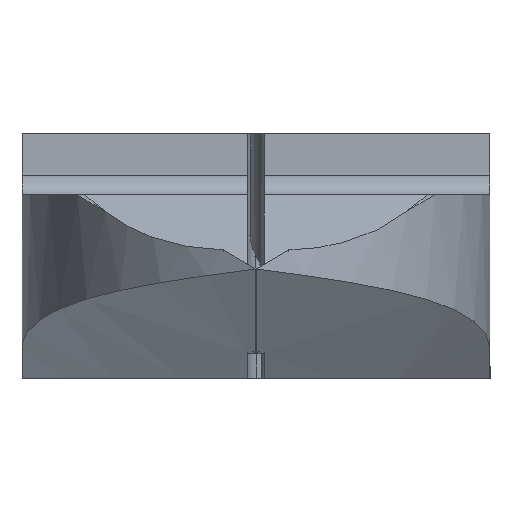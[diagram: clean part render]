
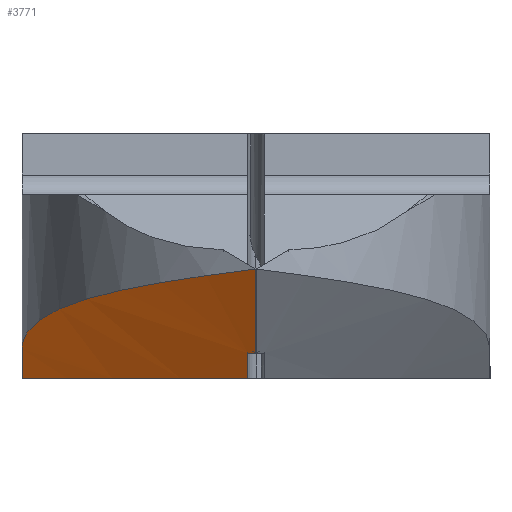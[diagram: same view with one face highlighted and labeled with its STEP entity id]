
A CAD part, left-side view. The second image highlights one B-rep face of the part: STEP entity #3771.
In plain terms, the highlighted cylindrical face has radius 75 mm (diameter 150 mm), a partial arc.
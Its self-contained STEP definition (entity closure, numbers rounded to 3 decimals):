
#35 = CARTESIAN_POINT ( 'NONE',  ( -14.996, 0.4, -12. ) ) ;
#44 = VERTEX_POINT ( 'NONE', #655 ) ;
#134 = CYLINDRICAL_SURFACE ( 'NONE', #700, 75. ) ;
#215 = CARTESIAN_POINT ( 'NONE',  ( -25.923, 9.353, -8.467 ) ) ;
#303 = EDGE_CURVE ( 'NONE', #44, #1290, #4991, .T. ) ;
#333 = CARTESIAN_POINT ( 'NONE',  ( -19.545, 0.267, -10.782 ) ) ;
#343 = CARTESIAN_POINT ( 'NONE',  ( -25.495, 9.563, -8.554 ) ) ;
#515 = DIRECTION ( 'NONE',  ( -0.966, 0., 0.259 ) ) ;
#571 = CARTESIAN_POINT ( 'NONE',  ( -21.53, 10.978, -9.414 ) ) ;
#655 = CARTESIAN_POINT ( 'NONE',  ( -19.545, 0.4, -10.781 ) ) ;
#700 = AXIS2_PLACEMENT_3D ( 'NONE', #3399, #3054, #2628 ) ;
#784 = CARTESIAN_POINT ( 'NONE',  ( -19.545, 0., -10.782 ) ) ;
#1000 = CARTESIAN_POINT ( 'NONE',  ( -24.201, 10.142, -8.822 ) ) ;
#1134 = CARTESIAN_POINT ( 'NONE',  ( -23.321, 10.463, -9.012 ) ) ;
#1176 = CARTESIAN_POINT ( 'NONE',  ( -27.165, 8.669, -8.22 ) ) ;
#1198 = DIRECTION ( 'NONE',  ( -0.966, 0., 0.259 ) ) ;
#1214 = CARTESIAN_POINT ( 'NONE',  ( -29.12, 7.358, -7.845 ) ) ;
#1285 = CARTESIAN_POINT ( 'NONE',  ( -13.776, 7.825, -12. ) ) ;
#1290 = VERTEX_POINT ( 'NONE', #4936 ) ;
#1530 = CARTESIAN_POINT ( 'NONE',  ( -28.36, 7.915, -7.988 ) ) ;
#1555 = CARTESIAN_POINT ( 'NONE',  ( -26.757, 8.906, -8.301 ) ) ;
#1582 = VERTEX_POINT ( 'NONE', #2063 ) ;
#1636 = EDGE_CURVE ( 'NONE', #2586, #5326, #5350, .T. ) ;
#1940 = ORIENTED_EDGE ( 'NONE', *, *, #2684, .T. ) ;
#1979 = CARTESIAN_POINT ( 'NONE',  ( -30.202, 6.439, -7.641 ) ) ;
#2021 = CARTESIAN_POINT ( 'NONE',  ( -16.896, 11.5, -10.574 ) ) ;
#2063 = CARTESIAN_POINT ( 'NONE',  ( -11.573, 11.5, -12. ) ) ;
#2303 = CARTESIAN_POINT ( 'NONE',  ( -35., 0., -6.641 ) ) ;
#2324 = EDGE_LOOP ( 'NONE', ( #4312, #2982, #1940, #4896, #2658, #4835 ) ) ;
#2392 = CARTESIAN_POINT ( 'NONE',  ( -31.566, 5.103, -7.382 ) ) ;
#2401 = FACE_OUTER_BOUND ( 'NONE', #2324, .T. ) ;
#2411 = CARTESIAN_POINT ( 'NONE',  ( -17.363, 11.5, -10.449 ) ) ;
#2447 = CARTESIAN_POINT ( 'NONE',  ( -17.829, 11.484, -10.326 ) ) ;
#2586 = VERTEX_POINT ( 'NONE', #4522 ) ;
#2628 = DIRECTION ( 'NONE',  ( 0.259, 0., 0.966 ) ) ;
#2658 = ORIENTED_EDGE ( 'NONE', *, *, #3706, .T. ) ;
#2675 = CARTESIAN_POINT ( 'NONE',  ( -19.229, 11.369, -9.97 ) ) ;
#2684 = EDGE_CURVE ( 'NONE', #5154, #44, #3427, .T. ) ;
#2710 = CARTESIAN_POINT ( 'NONE',  ( -34.184, 1.739, -6.86 ) ) ;
#2730 = CARTESIAN_POINT ( 'NONE',  ( -31.236, 5.45, -7.445 ) ) ;
#2859 = CARTESIAN_POINT ( 'NONE',  ( -23.403, 0., -9.748 ) ) ;
#2868 = DIRECTION ( 'NONE',  ( -0.966, 0., 0.259 ) ) ;
#2982 = ORIENTED_EDGE ( 'NONE', *, *, #5071, .F. ) ;
#3054 = DIRECTION ( 'NONE',  ( -0.966, 0., 0.259 ) ) ;
#3230 =( BOUNDED_CURVE ( )  B_SPLINE_CURVE ( 3, ( #3377, #3783, #1285, #4238 ),
 .UNSPECIFIED., .F., .T. ) 
 B_SPLINE_CURVE_WITH_KNOTS ( ( 4, 4 ),
 ( 0.005, 0.154 ),
 .UNSPECIFIED. ) 
 CURVE ( )  GEOMETRIC_REPRESENTATION_ITEM ( )  RATIONAL_B_SPLINE_CURVE ( ( 1., 0.998, 0.998, 1. ) ) 
 REPRESENTATION_ITEM ( '' )  );
#3294 = CARTESIAN_POINT ( 'NONE',  ( -19.545, 0.133, -10.782 ) ) ;
#3377 = CARTESIAN_POINT ( 'NONE',  ( -14.996, 0.4, -12. ) ) ;
#3399 = CARTESIAN_POINT ( 'NONE',  ( 7.609, 0., 59.588 ) ) ;
#3427 = LINE ( 'NONE', #5423, #4955 ) ;
#3478 = CARTESIAN_POINT ( 'NONE',  ( -11.573, 11.5, -12. ) ) ;
#3518 = LINE ( 'NONE', #3478, #4527 ) ;
#3650 = VECTOR ( 'NONE', #1198, 1000. ) ;
#3706 = EDGE_CURVE ( 'NONE', #1290, #2586, #3799, .T. ) ;
#3771 = ADVANCED_FACE ( 'NONE', ( #2401 ), #134, .T. ) ;
#3783 = CARTESIAN_POINT ( 'NONE',  ( -14.919, 4.119, -12. ) ) ;
#3792 = EDGE_CURVE ( 'NONE', #1582, #5326, #3518, .T. ) ;
#3799 = LINE ( 'NONE', #2859, #3650 ) ;
#4087 = CARTESIAN_POINT ( 'NONE',  ( -33.141, 3.32, -7.077 ) ) ;
#4128 = CARTESIAN_POINT ( 'NONE',  ( -30.553, 6.119, -7.574 ) ) ;
#4238 = CARTESIAN_POINT ( 'NONE',  ( -11.573, 11.5, -12. ) ) ;
#4312 = ORIENTED_EDGE ( 'NONE', *, *, #3792, .F. ) ;
#4522 = CARTESIAN_POINT ( 'NONE',  ( -35., 0., -6.641 ) ) ;
#4527 = VECTOR ( 'NONE', #515, 1000. ) ;
#4530 = CARTESIAN_POINT ( 'NONE',  ( -18.762, 11.418, -10.087 ) ) ;
#4807 = CARTESIAN_POINT ( 'NONE',  ( -16.896, 11.5, -10.574 ) ) ;
#4835 = ORIENTED_EDGE ( 'NONE', *, *, #1636, .T. ) ;
#4896 = ORIENTED_EDGE ( 'NONE', *, *, #303, .T. ) ;
#4936 = CARTESIAN_POINT ( 'NONE',  ( -19.545, 0., -10.782 ) ) ;
#4951 = CARTESIAN_POINT ( 'NONE',  ( -20.619, 11.173, -9.628 ) ) ;
#4955 = VECTOR ( 'NONE', #2868, 1000. ) ;
#4991 =( BOUNDED_CURVE ( )  B_SPLINE_CURVE ( 3, ( #5426, #333, #3294, #784 ),
 .UNSPECIFIED., .F., .T. ) 
 B_SPLINE_CURVE_WITH_KNOTS ( ( 4, 4 ),
 ( 3.136, 3.142 ),
 .UNSPECIFIED. ) 
 CURVE ( )  GEOMETRIC_REPRESENTATION_ITEM ( )  RATIONAL_B_SPLINE_CURVE ( ( 1., 1., 1., 1. ) ) 
 REPRESENTATION_ITEM ( '' )  );
#5071 = EDGE_CURVE ( 'NONE', #5154, #1582, #3230, .T. ) ;
#5154 = VERTEX_POINT ( 'NONE', #35 ) ;
#5326 = VERTEX_POINT ( 'NONE', #4807 ) ;
#5350 = B_SPLINE_CURVE_WITH_KNOTS ( 'NONE', 3,
 ( #2303, #2710, #4087, #2392, #2730, #4128, #1979, #1214, #1530, #1176, #1555, #215, #343, #1000, #1134, #571, #4951, #2675, #4530, #2447, #2411, #2021 ),
 .UNSPECIFIED., .F., .F.,
 ( 4, 2, 2, 2, 2, 2, 2, 2, 2, 2, 4 ),
 ( 0., 0.006, 0.007, 0.009, 0.011, 0.013, 0.014, 0.017, 0.02, 0.021, 0.023 ),
 .UNSPECIFIED. ) ;
#5423 = CARTESIAN_POINT ( 'NONE',  ( -23.403, 0.4, -9.747 ) ) ;
#5426 = CARTESIAN_POINT ( 'NONE',  ( -19.545, 0.4, -10.781 ) ) ;
